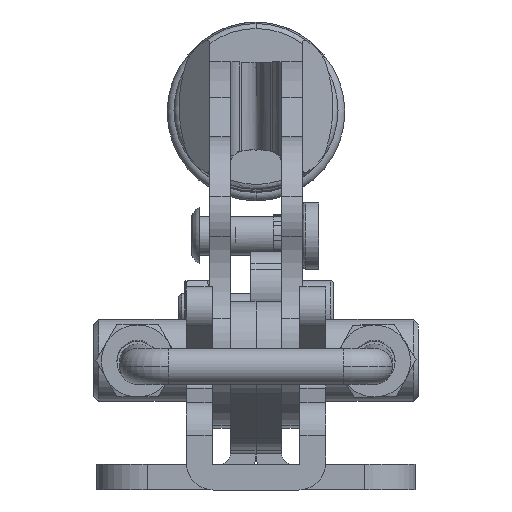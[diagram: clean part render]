
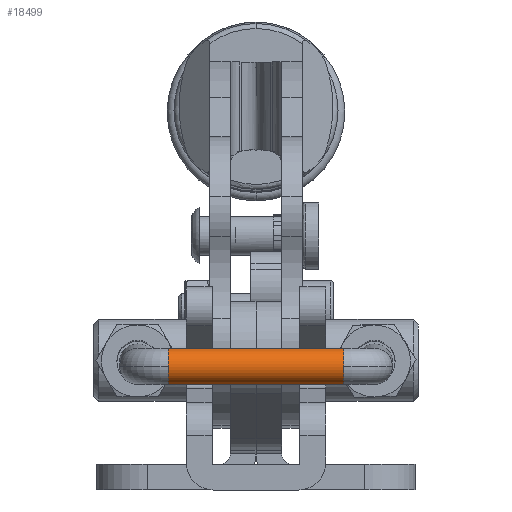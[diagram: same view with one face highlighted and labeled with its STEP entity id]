
A CAD part, left-side view. The second image highlights one B-rep face of the part: STEP entity #18499.
In plain terms, the highlighted cylindrical face has radius 1.75 mm (diameter 3.5 mm), a partial arc.
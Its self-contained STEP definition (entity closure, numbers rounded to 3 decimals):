
#564 = DIRECTION ( 'NONE',  ( 0., 0., -1. ) ) ;
#567 = EDGE_CURVE ( 'NONE', #7455, #20640, #22535, .T. ) ;
#647 = DIRECTION ( 'NONE',  ( 0., 0., -1. ) ) ;
#1086 = CARTESIAN_POINT ( 'NONE',  ( -116.93, 21.056, -15.159 ) ) ;
#3907 = VECTOR ( 'NONE', #15089, 1000. ) ;
#4179 = ORIENTED_EDGE ( 'NONE', *, *, #8104, .T. ) ;
#4782 = EDGE_LOOP ( 'NONE', ( #9304, #24952, #5331, #4179, #14821, #23277 ) ) ;
#5331 = ORIENTED_EDGE ( 'NONE', *, *, #16972, .T. ) ;
#7200 = DIRECTION ( 'NONE',  ( 0., -1., 0. ) ) ;
#7455 = VERTEX_POINT ( 'NONE', #25480 ) ;
#7997 = DIRECTION ( 'NONE',  ( -1., 0., -0.009 ) ) ;
#8026 = VERTEX_POINT ( 'NONE', #25239 ) ;
#8104 = EDGE_CURVE ( 'NONE', #9706, #20966, #14880, .T. ) ;
#8549 = CIRCLE ( 'NONE', #23395, 1.75 ) ;
#9304 = ORIENTED_EDGE ( 'NONE', *, *, #14226, .F. ) ;
#9569 = FACE_OUTER_BOUND ( 'NONE', #4782, .T. ) ;
#9706 = VERTEX_POINT ( 'NONE', #14168 ) ;
#9985 = CARTESIAN_POINT ( 'NONE',  ( -116.93, 4.056, -15.159 ) ) ;
#10768 = DIRECTION ( 'NONE',  ( 0., -1., 0. ) ) ;
#11600 = CIRCLE ( 'NONE', #21371, 1.75 ) ;
#11711 = CARTESIAN_POINT ( 'NONE',  ( -118.68, 4.056, -15.175 ) ) ;
#12345 = AXIS2_PLACEMENT_3D ( 'NONE', #17119, #22714, #647 ) ;
#13870 = CARTESIAN_POINT ( 'NONE',  ( -116.93, 4.056, -16.909 ) ) ;
#14168 = CARTESIAN_POINT ( 'NONE',  ( -116.93, 21.056, -16.909 ) ) ;
#14226 = EDGE_CURVE ( 'NONE', #7455, #8026, #20940, .T. ) ;
#14453 = AXIS2_PLACEMENT_3D ( 'NONE', #17029, #23666, #21416 ) ;
#14821 = ORIENTED_EDGE ( 'NONE', *, *, #25287, .F. ) ;
#14880 = LINE ( 'NONE', #15136, #24873 ) ;
#15089 = DIRECTION ( 'NONE',  ( 0., -1., 0. ) ) ;
#15136 = CARTESIAN_POINT ( 'NONE',  ( -116.93, 21.056, -16.909 ) ) ;
#16036 = EDGE_CURVE ( 'NONE', #8026, #21401, #11600, .T. ) ;
#16585 = CIRCLE ( 'NONE', #14453, 1.75 ) ;
#16823 = CARTESIAN_POINT ( 'NONE',  ( -116.93, 21.056, -13.409 ) ) ;
#16972 = EDGE_CURVE ( 'NONE', #20640, #9706, #8549, .T. ) ;
#17029 = CARTESIAN_POINT ( 'NONE',  ( -116.93, 4.056, -15.159 ) ) ;
#17119 = CARTESIAN_POINT ( 'NONE',  ( -116.93, 21.056, -15.159 ) ) ;
#17678 = CYLINDRICAL_SURFACE ( 'NONE', #26311, 1.75 ) ;
#18293 = CARTESIAN_POINT ( 'NONE',  ( -118.68, 21.056, -15.175 ) ) ;
#18499 = ADVANCED_FACE ( 'NONE', ( #9569 ), #17678, .T. ) ;
#19950 = DIRECTION ( 'NONE',  ( 0., -1., 0. ) ) ;
#20640 = VERTEX_POINT ( 'NONE', #18293 ) ;
#20940 = LINE ( 'NONE', #16823, #3907 ) ;
#20966 = VERTEX_POINT ( 'NONE', #13870 ) ;
#21371 = AXIS2_PLACEMENT_3D ( 'NONE', #9985, #19950, #7997 ) ;
#21401 = VERTEX_POINT ( 'NONE', #11711 ) ;
#21416 = DIRECTION ( 'NONE',  ( -1., 0., -0.009 ) ) ;
#21791 = DIRECTION ( 'NONE',  ( 0., -1., 0. ) ) ;
#22535 = CIRCLE ( 'NONE', #12345, 1.75 ) ;
#22714 = DIRECTION ( 'NONE',  ( 0., -1., 0. ) ) ;
#23277 = ORIENTED_EDGE ( 'NONE', *, *, #16036, .F. ) ;
#23395 = AXIS2_PLACEMENT_3D ( 'NONE', #1086, #7200, #564 ) ;
#23666 = DIRECTION ( 'NONE',  ( 0., -1., 0. ) ) ;
#23910 = DIRECTION ( 'NONE',  ( 0., 0., -1. ) ) ;
#24873 = VECTOR ( 'NONE', #10768, 1000. ) ;
#24952 = ORIENTED_EDGE ( 'NONE', *, *, #567, .T. ) ;
#25239 = CARTESIAN_POINT ( 'NONE',  ( -116.93, 4.056, -13.409 ) ) ;
#25287 = EDGE_CURVE ( 'NONE', #21401, #20966, #16585, .T. ) ;
#25480 = CARTESIAN_POINT ( 'NONE',  ( -116.93, 21.056, -13.409 ) ) ;
#25782 = CARTESIAN_POINT ( 'NONE',  ( -116.93, 21.056, -15.159 ) ) ;
#26311 = AXIS2_PLACEMENT_3D ( 'NONE', #25782, #21791, #23910 ) ;
